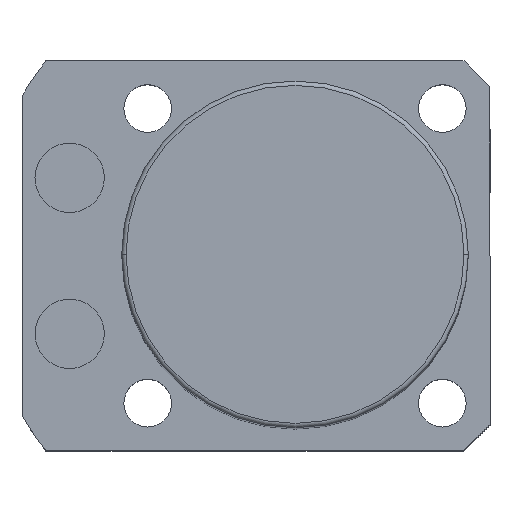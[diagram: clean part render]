
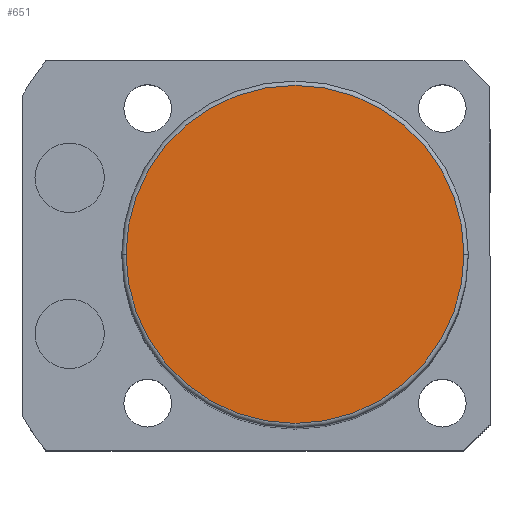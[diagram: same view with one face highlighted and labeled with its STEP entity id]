
A CAD part, top view. The second image highlights one B-rep face of the part: STEP entity #651.
In plain terms, the highlighted planar face has unit normal (0, 0, 1).
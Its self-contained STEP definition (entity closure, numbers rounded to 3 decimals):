
#51 = DIRECTION ( 'NONE',  ( 1., 0., 0. ) ) ;
#129 = AXIS2_PLACEMENT_3D ( 'NONE', #1378, #2195, #51 ) ;
#209 = CARTESIAN_POINT ( 'NONE',  ( 0., 0., 108.5 ) ) ;
#380 = DIRECTION ( 'NONE',  ( 0., 0., 1. ) ) ;
#390 = DIRECTION ( 'NONE',  ( 1., 0., 0. ) ) ;
#527 = PLANE ( 'NONE',  #1636 ) ;
#555 = CARTESIAN_POINT ( 'NONE',  ( 0., 0., 108.5 ) ) ;
#622 = ORIENTED_EDGE ( 'NONE', *, *, #2227, .T. ) ;
#651 = ADVANCED_FACE ( 'NONE', ( #1049 ), #527, .T. ) ;
#971 = DIRECTION ( 'NONE',  ( 0., 0., 1. ) ) ;
#1005 = CIRCLE ( 'NONE', #1251, 19.5 ) ;
#1049 = FACE_OUTER_BOUND ( 'NONE', #2490, .T. ) ;
#1129 = CARTESIAN_POINT ( 'NONE',  ( -19.5, 0., 108.5 ) ) ;
#1160 = VERTEX_POINT ( 'NONE', #1129 ) ;
#1251 = AXIS2_PLACEMENT_3D ( 'NONE', #209, #971, #1339 ) ;
#1339 = DIRECTION ( 'NONE',  ( 1., 0., 0. ) ) ;
#1378 = CARTESIAN_POINT ( 'NONE',  ( 0., 0., 108.5 ) ) ;
#1636 = AXIS2_PLACEMENT_3D ( 'NONE', #555, #380, #390 ) ;
#1747 = ORIENTED_EDGE ( 'NONE', *, *, #2080, .T. ) ;
#1909 = CIRCLE ( 'NONE', #129, 19.5 ) ;
#2080 = EDGE_CURVE ( 'NONE', #1160, #2111, #1005, .T. ) ;
#2111 = VERTEX_POINT ( 'NONE', #2340 ) ;
#2195 = DIRECTION ( 'NONE',  ( 0., 0., 1. ) ) ;
#2227 = EDGE_CURVE ( 'NONE', #2111, #1160, #1909, .T. ) ;
#2340 = CARTESIAN_POINT ( 'NONE',  ( 19.5, 0., 108.5 ) ) ;
#2490 = EDGE_LOOP ( 'NONE', ( #622, #1747 ) ) ;
